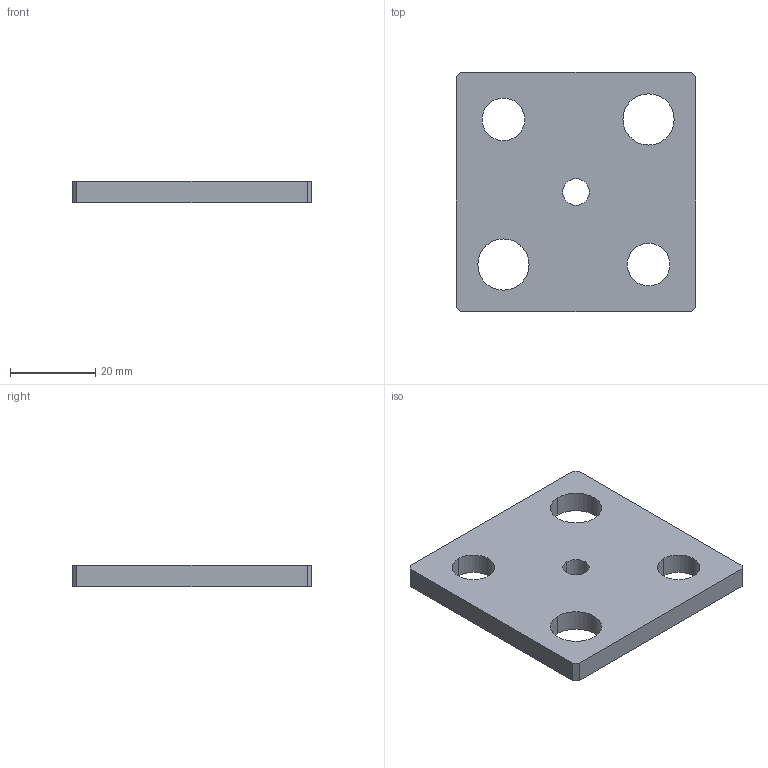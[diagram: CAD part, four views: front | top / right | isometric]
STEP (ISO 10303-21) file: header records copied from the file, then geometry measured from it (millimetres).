
FILE_DESCRIPTION(/* description */ (''),/* implementation_level */ '2;1');
FILE_NAME(/* name */ '3d_mpsp25_04599_r00.stp',/* time_stamp */ '2011-01-10T14:13:29+09:00',/* author */ ('MISUMI'),/* organization */ (''),/* preprocessor_version */ 'ST-DEVELOPER v11',/* originating_system */ 'UGS - NX 5.0',/* authorisation */ '');
FILE_SCHEMA (('CONFIG_CONTROL_DESIGN'));
Length unit declared in the file: millimetre
Products named in the file (1): 3d_mpsp25_04599_r00
Bounding box: 56 x 56 x 5 mm (x, y, z)
Volume: 13602.7 mm3; surface area: 7337.9 mm2
Topology: 1 solids, 1 shells, 20 faces, 54 edges, 36 vertices
Faces by surface type: plane 10, cylinder 10
Entity records: 744 total; most frequent: DIRECTION 116, CARTESIAN_POINT 111, ORIENTED_EDGE 108, EDGE_CURVE 54, AXIS2_PLACEMENT_3D 41, VERTEX_POINT 36, LINE 34, VECTOR 34
